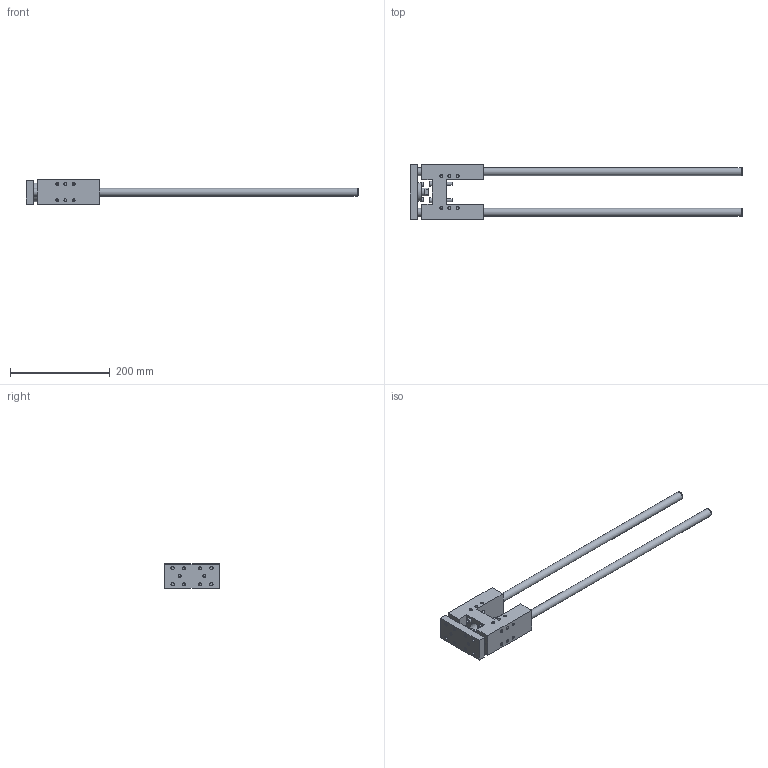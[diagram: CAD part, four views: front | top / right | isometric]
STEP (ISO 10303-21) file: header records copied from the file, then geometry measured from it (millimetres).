
FILE_DESCRIPTION( ( 'STEP AP214' ), '1' );
FILE_NAME( 'U:/Etudes/Top Solid/BIBLIO 3D AVM/TOP/PNEUMATIQUE/GUIDAGES/Type 32 (en H)/R_Renforcée/324R8_30.step', '2005-05-27T08:53:26', ( ' ' ), ( ' ' ), 'XStep 1.0', ' ', ' ' );
FILE_SCHEMA( ( 'automotive_design' ) );
Length unit declared in the file: metre
Products named in the file (2): 1; 2
Bounding box: 667 x 112 x 49 mm (x, y, z)
Volume: 719997 mm3; surface area: 162435.1 mm2
Topology: 2 solids, 5 shells, 269 faces, 602 edges, 401 vertices
Faces by surface type: plane 128, cylinder 96, cone 45
Full cylindrical faces by diameter (mm): 4.918 x32, 5 x4, 5.5 x2, 6 x16, 6.2 x12, 6.5 x4, 6.6 x4, 8.5 x2, 8.647 x2, 10 x4, 11 x4, 16 x5, 18 x1, 22.8 x1, 25 x1, 30 x1, 38 x1
Entity records: 8627 total; most frequent: CARTESIAN_POINT 1195, DIRECTION 1138, ORIENTED_EDGE 772, EDGE_LOOP 500, AXIS2_PLACEMENT_3D 487, EDGE_CURVE 386, FACE_OUTER_BOUND 365, VERTEX_POINT 340
